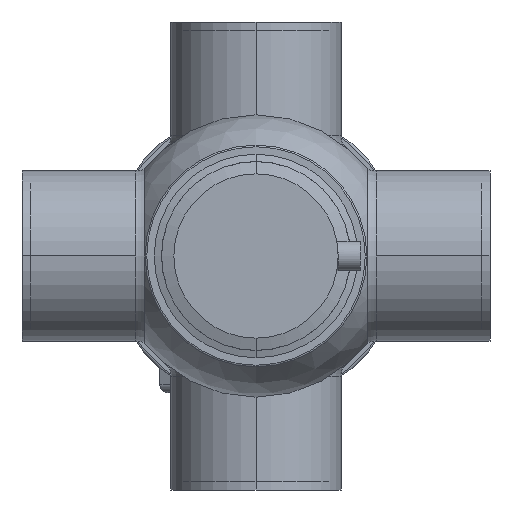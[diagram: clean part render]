
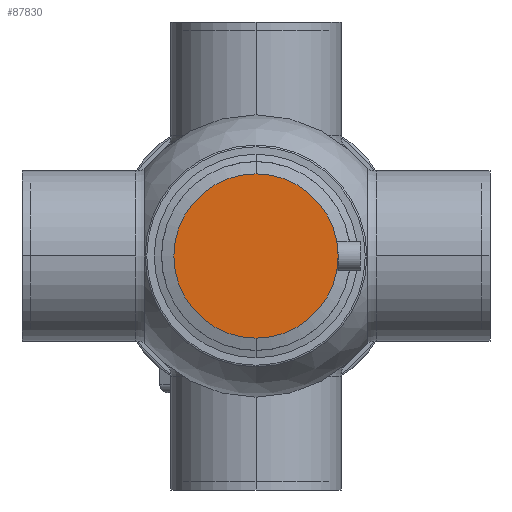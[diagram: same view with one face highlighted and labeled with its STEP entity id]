
A CAD part, front view. The second image highlights one B-rep face of the part: STEP entity #87830.
In plain terms, the highlighted planar face has unit normal (0, -1, 0) as drawn and (0, 0, -1) by its records, which use the part's own axes.
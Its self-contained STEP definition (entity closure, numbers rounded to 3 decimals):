
#79070=CARTESIAN_POINT('',(50.,34.1,-20.));
#79080=VERTEX_POINT('',#79070);
#79130=CARTESIAN_POINT('',(0.,34.1,-20.));
#79140=DIRECTION('',(0.,0.,1.));
#79150=DIRECTION('',(1.,0.,0.));
#79160=AXIS2_PLACEMENT_3D('',#79130,#79140,#79150);
#79170=CIRCLE('',#79160,50.);
#79180=CARTESIAN_POINT('',(-50.,34.1,-20.));
#79190=VERTEX_POINT('',#79180);
#79200=EDGE_CURVE('',#79190,#79080,#79170,.T.);
#87730=CARTESIAN_POINT('',(-48.25,34.1,-20.));
#87740=DIRECTION('',(0.,0.,-1.));
#87750=DIRECTION('',(-1.,0.,0.));
#87760=AXIS2_PLACEMENT_3D('',#87730,#87740,#87750);
#87770=PLANE('',#87760);
#87780=EDGE_CURVE('',#79080,#79190,#79170,.T.);
#87790=ORIENTED_EDGE('',*,*,#87780,.F.);
#87800=ORIENTED_EDGE('',*,*,#79200,.F.);
#87810=EDGE_LOOP('',(#87800,#87790));
#87820=FACE_OUTER_BOUND('',#87810,.T.);
#87830=ADVANCED_FACE('',(#87820),#87770,.T.);
